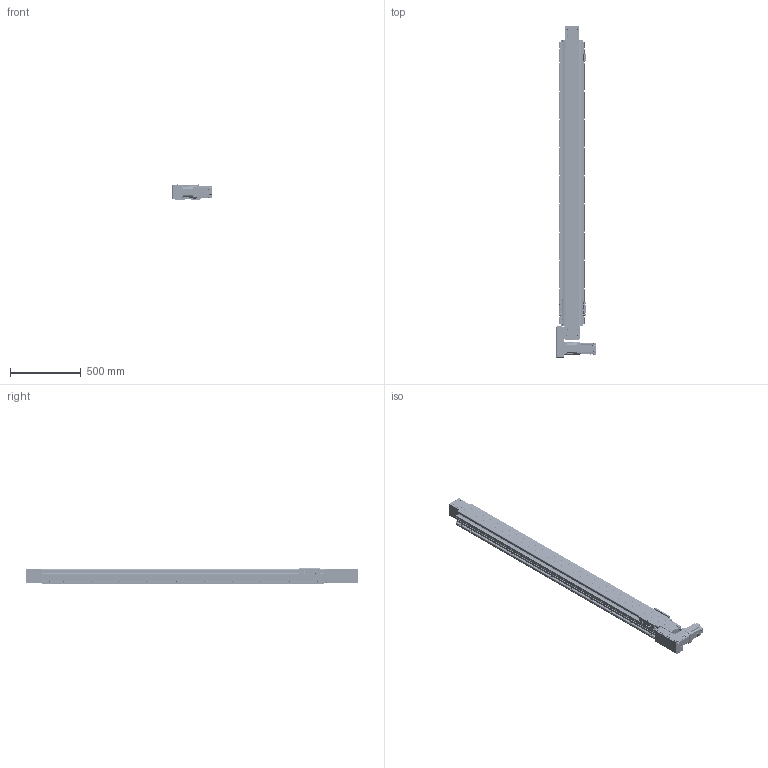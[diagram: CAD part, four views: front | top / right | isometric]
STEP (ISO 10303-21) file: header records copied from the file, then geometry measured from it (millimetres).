
FILE_DESCRIPTION(/* description */ (''),/* implementation_level */ '2;1');
FILE_NAME(/* name */ '\\192.168.0.160\disk1\HAN SHIN Master\B-설계부문\C-표준\B-2024년\BC02-표준도면\+로봇 개선표준도면\홈페이지 표준 도면\홈페이지 최종 작업 폴더\3D\HSB\HSB160\HSB160-L7G-N-1800-R.stp',/* time_stamp */ '2025-01-09T17:53:51+09:00',/* author */ ('user'),/* organization */ (''),/* preprocessor_version */ 'ST-DEVELOPER v18.1',/* originating_system */ 'Autodesk Inventor 2022',/* authorisation */ '');
FILE_SCHEMA (('AUTOMOTIVE_DESIGN { 1 0 10303 214 3 1 1 }'));
Products named in the file (42): HSB160-L7G-N-0500-R; BASE; HSB160 TABLE (TEST); FORNT HOUSUNG-1 (Connecting); UPCOVER; HSB160 COVER-1; REAR HOUSUNG-1---; HSB160 REAR SHAFT-2; REAR SHAFT--2; 6004ZZ; 6004ZZ Outer ring; 6004ZZ Shield1; 6004ZZ Inner ring; 6004ZZ Ball; 6004ZZ Shield2; STOPPER3; TENSION PLATE; HSB160 ARC COVER; hsr_ftht_A-M6F_grease_nipple_joint; NIPPLE CAP(신규); SIDE COVER; hg-kr73_; PGX90-H-1_3; L MOTOR PLATE ASSY; HG160 750W LR MOTOR PLATE-사출; HR160 400W LR BELT COVER; HR180 ACRYL COVER - 1; HR180 ACRYL COVER - 1_1; 750W MOTOR PLATE; HR180 ACRYL COVER - 1_2; HSB160 BEARING OVER; HSB160 END COVER; HSB160 SHAFT-1; 6206ZZ; 6206ZZ Outer ring; 6206ZZ Shield1; 6206ZZ Inner ring; 6206ZZ Ball; 6206ZZ Shield2; HR120 SENSOR DOG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
Assembly tree (87 placements, depth 3):
  HSB160-L7G-N-0500-R
    BASE
    HSB160 TABLE (TEST)
    FORNT HOUSUNG-1 (Connecting)
    UPCOVER
    HSB160 COVER-1  x2
    REAR HOUSUNG-1---
    6004ZZ  x2
      6004ZZ Outer ring
      6004ZZ Shield1
      6004ZZ Inner ring
      6004ZZ Ball
      6004ZZ Shield2
    HSB160 REAR SHAFT-2
    REAR SHAFT--2
    TENSION PLATE  x2
    HSB160 ARC COVER  x4
    STOPPER3  x4
    SIDE COVER  x2
    hsr_ftht_A-M6F_grease_nipple_joint  x4
    NIPPLE CAP(신규)  x4
    hg-kr73_
    PGX90-H-1_3
    L MOTOR PLATE ASSY
      HG160 750W LR MOTOR PLATE-사출
      HR160 400W LR BELT COVER
      HR180 ACRYL COVER - 1
      HR180 ACRYL COVER - 1_1
      HR180 ACRYL COVER - 1_2  x2
      750W MOTOR PLATE
    HSB160 BEARING OVER
    HSB160 END COVER
    6206ZZ  x2
      6206ZZ Outer ring
      6206ZZ Shield1
      6206ZZ Inner ring
      6206ZZ Ball
      6206ZZ Shield2
    HSB160 SHAFT-1
    HR120 SENSOR DOG
    SENSOR BRK(EE-SX674A)  x3
    EE_SX674A  x3
Bounding box: 284.5 x 2353.5 x 107 mm (x, y, z)
Volume: 13639229.1 mm3; surface area: 3458264.3 mm2
Topology: 131 solids, 133 shells, 6553 faces, 18019 edges, 11846 vertices
Faces by surface type: plane 4583, cylinder 1417, cone 381, sphere 88, torus 59, bspline 25
Full cylindrical faces by diameter (mm): 2.013 x2, 2.459 x52, 3 x20, 3.242 x50, 3.4 x20, 3.5 x6, 4.134 x18, 4.2 x4, 4.5 x40, 4.917 x80, 5 x44, 5.1 x1, 5.5 x25, 5.6 x4, 5.9 x4, 6 x23, 6.5 x9, 6.6 x18, 6.8 x9, 7 x32, 7.6 x4, 8 x5, 8.376 x22, 8.433 x2, 9 x4, 9.5 x31, 10 x5, 11 x28, 15 x8, 18.5 x2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
Entity records: 120870 total; most frequent: CARTESIAN_POINT 22866, DIRECTION 20122, ORIENTED_EDGE 19514, EDGE_CURVE 9757, AXIS2_PLACEMENT_3D 6849, VERTEX_POINT 6453, LINE 6424, VECTOR 6424
